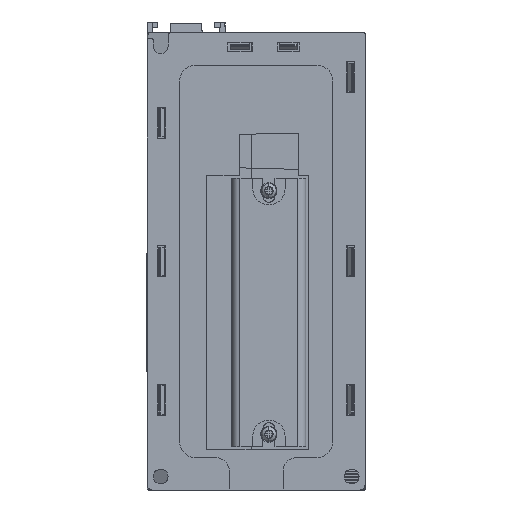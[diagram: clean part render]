
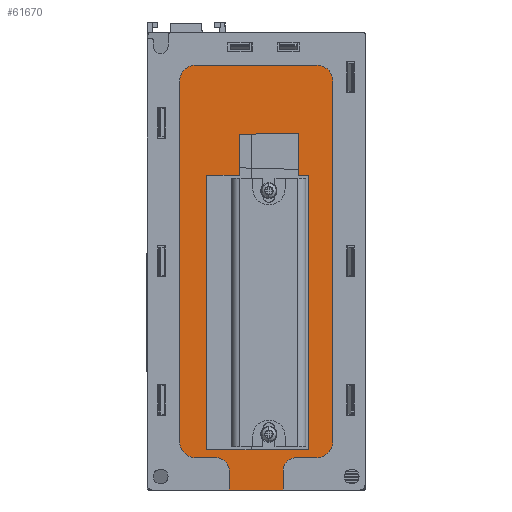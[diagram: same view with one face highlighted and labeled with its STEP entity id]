
A CAD part, front view. The second image highlights one B-rep face of the part: STEP entity #61670.
In plain terms, the highlighted planar face has unit normal (0, -1, 0).
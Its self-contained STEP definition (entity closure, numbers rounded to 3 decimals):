
#278=DIRECTION('',(0.,0.,1.));
#279=VECTOR('',#278,7.);
#280=CARTESIAN_POINT('',(10.,1.,-85.));
#281=LINE('',#280,#279);
#346=DIRECTION('',(1.,0.,0.));
#347=VECTOR('',#346,20.);
#348=CARTESIAN_POINT('',(-10.,1.,-85.));
#349=LINE('',#348,#347);
#1314=CARTESIAN_POINT('',(-15.,1.,-78.));
#1315=DIRECTION('',(0.,-1.,0.));
#1316=DIRECTION('',(1.,0.,0.));
#1317=AXIS2_PLACEMENT_3D('',#1314,#1315,#1316);
#1319=CARTESIAN_POINT('',(-22.5,1.,-67.));
#1320=DIRECTION('',(0.,1.,0.));
#1321=DIRECTION('',(0.,0.,-1.));
#1322=AXIS2_PLACEMENT_3D('',#1319,#1320,#1321);
#1324=CARTESIAN_POINT('',(-22.5,1.,67.));
#1325=DIRECTION('',(0.,1.,0.));
#1326=DIRECTION('',(-1.,0.,0.));
#1327=AXIS2_PLACEMENT_3D('',#1324,#1325,#1326);
#1329=CARTESIAN_POINT('',(22.5,1.,67.));
#1330=DIRECTION('',(0.,1.,0.));
#1331=DIRECTION('',(0.,0.,1.));
#1332=AXIS2_PLACEMENT_3D('',#1329,#1330,#1331);
#1334=CARTESIAN_POINT('',(22.5,1.,-67.));
#1335=DIRECTION('',(0.,1.,0.));
#1336=DIRECTION('',(1.,0.,0.));
#1337=AXIS2_PLACEMENT_3D('',#1334,#1335,#1336);
#1339=CARTESIAN_POINT('',(15.,1.,-78.));
#1340=DIRECTION('',(0.,-1.,0.));
#1341=DIRECTION('',(0.,0.,1.));
#1342=AXIS2_PLACEMENT_3D('',#1339,#1340,#1341);
#1344=DIRECTION('',(0.,0.,1.));
#1345=VECTOR('',#1344,102.);
#1346=CARTESIAN_POINT('',(19.5,1.,-70.));
#1347=LINE('',#1346,#1345);
#1348=DIRECTION('',(-1.,0.,0.));
#1349=VECTOR('',#1348,3.75);
#1350=CARTESIAN_POINT('',(19.5,1.,32.));
#1351=LINE('',#1350,#1349);
#1352=DIRECTION('',(0.,0.,1.));
#1353=VECTOR('',#1352,15.638);
#1354=CARTESIAN_POINT('',(15.75,1.,32.));
#1355=LINE('',#1354,#1353);
#1356=DIRECTION('',(-1.,0.,-0.017));
#1357=VECTOR('',#1356,22.003);
#1358=CARTESIAN_POINT('',(15.75,1.,47.638));
#1359=LINE('',#1358,#1357);
#1360=DIRECTION('',(0.,0.,-1.));
#1361=VECTOR('',#1360,15.254);
#1362=CARTESIAN_POINT('',(-6.25,1.,47.254));
#1363=LINE('',#1362,#1361);
#1364=DIRECTION('',(-1.,0.,0.));
#1365=VECTOR('',#1364,12.15);
#1366=CARTESIAN_POINT('',(-6.25,1.,32.));
#1367=LINE('',#1366,#1365);
#1368=DIRECTION('',(0.,0.,-1.));
#1369=VECTOR('',#1368,102.);
#1370=CARTESIAN_POINT('',(-18.4,1.,32.));
#1371=LINE('',#1370,#1369);
#1372=DIRECTION('',(1.,0.,0.));
#1373=VECTOR('',#1372,37.9);
#1374=CARTESIAN_POINT('',(-18.4,1.,-70.));
#1375=LINE('',#1374,#1373);
#1376=DIRECTION('',(0.,0.,-1.));
#1377=VECTOR('',#1376,7.);
#1378=CARTESIAN_POINT('',(-10.,1.,-78.));
#1379=LINE('',#1378,#1377);
#1392=DIRECTION('',(1.,0.,0.));
#1393=VECTOR('',#1392,7.5);
#1394=CARTESIAN_POINT('',(-22.5,1.,-73.));
#1395=LINE('',#1394,#1393);
#1404=DIRECTION('',(0.,0.,-1.));
#1405=VECTOR('',#1404,134.);
#1406=CARTESIAN_POINT('',(-28.5,1.,67.));
#1407=LINE('',#1406,#1405);
#1416=DIRECTION('',(-1.,0.,0.));
#1417=VECTOR('',#1416,45.);
#1418=CARTESIAN_POINT('',(22.5,1.,73.));
#1419=LINE('',#1418,#1417);
#1428=DIRECTION('',(0.,0.,1.));
#1429=VECTOR('',#1428,134.);
#1430=CARTESIAN_POINT('',(28.5,1.,-67.));
#1431=LINE('',#1430,#1429);
#1440=DIRECTION('',(1.,0.,0.));
#1441=VECTOR('',#1440,7.5);
#1442=CARTESIAN_POINT('',(15.,1.,-73.));
#1443=LINE('',#1442,#1441);
#47685=CARTESIAN_POINT('',(10.,1.,-78.));
#47686=VERTEX_POINT('',#47685);
#47687=CARTESIAN_POINT('',(15.,1.,-73.));
#47688=VERTEX_POINT('',#47687);
#47689=CARTESIAN_POINT('',(10.,1.,-85.));
#47690=VERTEX_POINT('',#47689);
#47725=CARTESIAN_POINT('',(-10.,1.,-85.));
#47726=VERTEX_POINT('',#47725);
#48513=CARTESIAN_POINT('',(15.75,1.,32.));
#48514=CARTESIAN_POINT('',(15.75,1.,47.638));
#48515=VERTEX_POINT('',#48513);
#48516=VERTEX_POINT('',#48514);
#48519=CARTESIAN_POINT('',(-10.,1.,-78.));
#48520=VERTEX_POINT('',#48519);
#48521=CARTESIAN_POINT('',(-15.,1.,-73.));
#48522=VERTEX_POINT('',#48521);
#48523=CARTESIAN_POINT('',(-22.5,1.,-73.));
#48524=VERTEX_POINT('',#48523);
#48525=CARTESIAN_POINT('',(-28.5,1.,-67.));
#48526=VERTEX_POINT('',#48525);
#48527=CARTESIAN_POINT('',(-28.5,1.,67.));
#48528=VERTEX_POINT('',#48527);
#48529=CARTESIAN_POINT('',(-22.5,1.,73.));
#48530=VERTEX_POINT('',#48529);
#48531=CARTESIAN_POINT('',(22.5,1.,73.));
#48532=VERTEX_POINT('',#48531);
#48533=CARTESIAN_POINT('',(28.5,1.,67.));
#48534=VERTEX_POINT('',#48533);
#48535=CARTESIAN_POINT('',(28.5,1.,-67.));
#48536=VERTEX_POINT('',#48535);
#48537=CARTESIAN_POINT('',(22.5,1.,-73.));
#48538=VERTEX_POINT('',#48537);
#48539=CARTESIAN_POINT('',(19.5,1.,-70.));
#48540=CARTESIAN_POINT('',(19.5,1.,32.));
#48541=VERTEX_POINT('',#48539);
#48542=VERTEX_POINT('',#48540);
#48543=CARTESIAN_POINT('',(-6.25,1.,47.254));
#48544=VERTEX_POINT('',#48543);
#48545=CARTESIAN_POINT('',(-6.25,1.,32.));
#48546=VERTEX_POINT('',#48545);
#48547=CARTESIAN_POINT('',(-18.4,1.,32.));
#48548=VERTEX_POINT('',#48547);
#48549=CARTESIAN_POINT('',(-18.4,1.,-70.));
#48550=VERTEX_POINT('',#48549);
#61621=CARTESIAN_POINT('',(0.,1.,0.));
#61622=DIRECTION('',(0.,-1.,0.));
#61623=DIRECTION('',(0.,0.,-1.));
#61624=AXIS2_PLACEMENT_3D('',#61621,#61622,#61623);
#61625=PLANE('',#61624);
#61627=ORIENTED_EDGE('',*,*,#61626,.F.);
#61629=ORIENTED_EDGE('',*,*,#61628,.T.);
#61631=ORIENTED_EDGE('',*,*,#61630,.F.);
#61633=ORIENTED_EDGE('',*,*,#61632,.T.);
#61635=ORIENTED_EDGE('',*,*,#61634,.F.);
#61637=ORIENTED_EDGE('',*,*,#61636,.T.);
#61639=ORIENTED_EDGE('',*,*,#61638,.F.);
#61641=ORIENTED_EDGE('',*,*,#61640,.T.);
#61643=ORIENTED_EDGE('',*,*,#61642,.F.);
#61645=ORIENTED_EDGE('',*,*,#61644,.T.);
#61647=ORIENTED_EDGE('',*,*,#61646,.F.);
#61648=ORIENTED_EDGE('',*,*,#60093,.T.);
#61649=ORIENTED_EDGE('',*,*,#60109,.F.);
#61650=ORIENTED_EDGE('',*,*,#60160,.F.);
#61651=EDGE_LOOP('',(#61627,#61629,#61631,#61633,#61635,#61637,#61639,#61641,
#61643,#61645,#61647,#61648,#61649,#61650));
#61652=FACE_OUTER_BOUND('',#61651,.F.);
#61654=ORIENTED_EDGE('',*,*,#61653,.T.);
#61656=ORIENTED_EDGE('',*,*,#61655,.T.);
#61657=ORIENTED_EDGE('',*,*,#61608,.T.);
#61659=ORIENTED_EDGE('',*,*,#61658,.T.);
#61661=ORIENTED_EDGE('',*,*,#61660,.T.);
#61663=ORIENTED_EDGE('',*,*,#61662,.T.);
#61665=ORIENTED_EDGE('',*,*,#61664,.T.);
#61667=ORIENTED_EDGE('',*,*,#61666,.T.);
#61668=EDGE_LOOP('',(#61654,#61656,#61657,#61659,#61661,#61663,#61665,#61667));
#61669=FACE_BOUND('',#61668,.F.);
#61670=ADVANCED_FACE('',(#61652,#61669),#61625,.T.);
#1318=CIRCLE('',#1317,5.);
#1323=CIRCLE('',#1322,6.);
#1328=CIRCLE('',#1327,6.);
#1333=CIRCLE('',#1332,6.);
#1338=CIRCLE('',#1337,6.);
#1343=CIRCLE('',#1342,5.);
#60093=EDGE_CURVE('',#47688,#47686,#1343,.T.);
#60109=EDGE_CURVE('',#47690,#47686,#281,.T.);
#60160=EDGE_CURVE('',#47726,#47690,#349,.T.);
#61608=EDGE_CURVE('',#48515,#48516,#1355,.T.);
#61626=EDGE_CURVE('',#48520,#47726,#1379,.T.);
#61628=EDGE_CURVE('',#48520,#48522,#1318,.T.);
#61630=EDGE_CURVE('',#48524,#48522,#1395,.T.);
#61632=EDGE_CURVE('',#48524,#48526,#1323,.T.);
#61634=EDGE_CURVE('',#48528,#48526,#1407,.T.);
#61636=EDGE_CURVE('',#48528,#48530,#1328,.T.);
#61638=EDGE_CURVE('',#48532,#48530,#1419,.T.);
#61640=EDGE_CURVE('',#48532,#48534,#1333,.T.);
#61642=EDGE_CURVE('',#48536,#48534,#1431,.T.);
#61644=EDGE_CURVE('',#48536,#48538,#1338,.T.);
#61646=EDGE_CURVE('',#47688,#48538,#1443,.T.);
#61653=EDGE_CURVE('',#48541,#48542,#1347,.T.);
#61655=EDGE_CURVE('',#48542,#48515,#1351,.T.);
#61658=EDGE_CURVE('',#48516,#48544,#1359,.T.);
#61660=EDGE_CURVE('',#48544,#48546,#1363,.T.);
#61662=EDGE_CURVE('',#48546,#48548,#1367,.T.);
#61664=EDGE_CURVE('',#48548,#48550,#1371,.T.);
#61666=EDGE_CURVE('',#48550,#48541,#1375,.T.);
